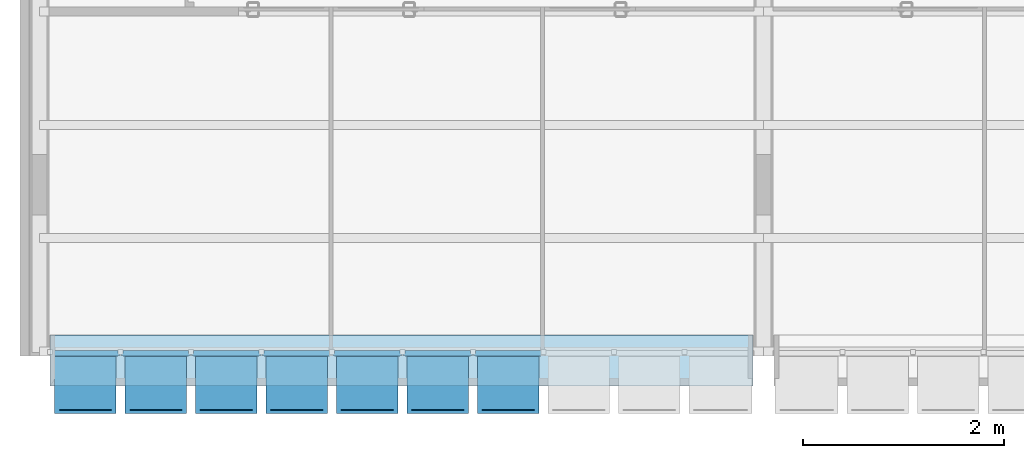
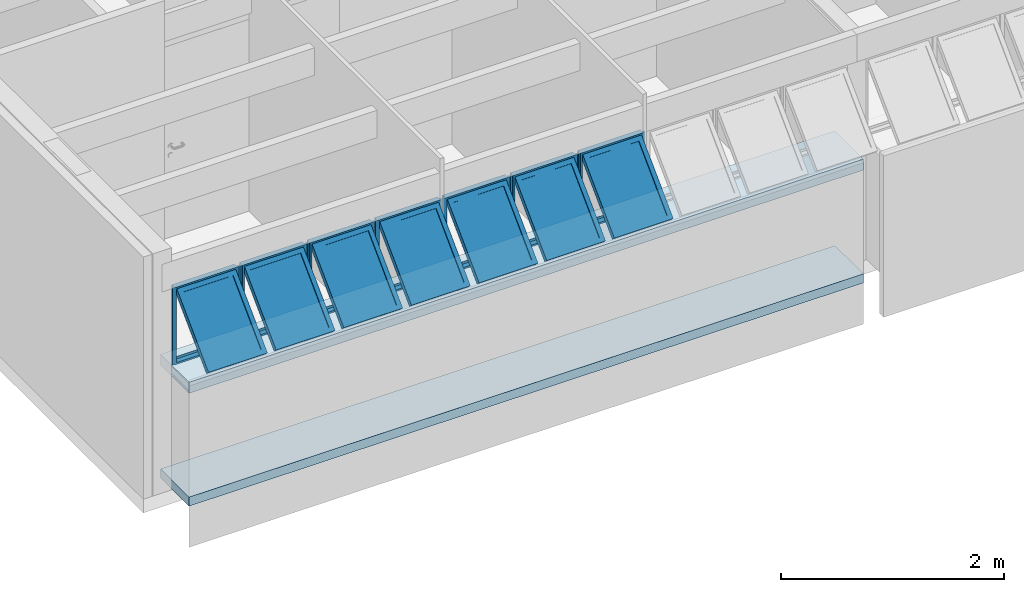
# One storey, part 4 of 40: 7 plates, 2 slabs, 1 element without a shape of its own.
"""IFC4 building model written with IfcOpenShell, lengths in millimetres."""

from ifc_helpers import new_model, entity, si_unit, converted_unit, derived_unit, direction, frame, origin_with_axes, place, context, subcontext, project, spatial, line, indexed_curve, outline, extrude, polygons, source, transform, mapped, material, layer, layer_set, layer_usage, constituent, constituent_set, type_object, element, aggregate, save


model = new_model("IFC4")

# Units and contexts
model_context = context("Model", 3, precision=0.01, world=origin_with_axes(), true_north=direction((0.0, 1.0)))
body_context = subcontext(model_context, "Body", "Model", "MODEL_VIEW")
ifc_project = project(units=[si_unit("LENGTHUNIT", "METRE", prefix="MILLI"), si_unit("AREAUNIT", "SQUARE_METRE"), si_unit("VOLUMEUNIT", "CUBIC_METRE"), converted_unit("PLANEANGLEUNIT", "DEGREE", entity("IfcPlaneAngleMeasure", 0.0174532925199), si_unit("PLANEANGLEUNIT", "RADIAN"), dimensions=[0, 0, 0, 0, 0, 0, 0]), converted_unit("TIMEUNIT", "Year", entity("IfcTimeMeasure", 31556926.0), si_unit("TIMEUNIT", "SECOND"), dimensions=[0, 0, 1, 0, 0, 0, 0]), si_unit("MASSUNIT", "GRAM", prefix="KILO"), si_unit("THERMODYNAMICTEMPERATUREUNIT", "DEGREE_CELSIUS"), si_unit("LUMINOUSINTENSITYUNIT", "LUMEN"), si_unit("ENERGYUNIT", "JOULE", prefix="MEGA"), derived_unit("THERMALCONDUCTANCEUNIT", [(si_unit("POWERUNIT", "WATT"), 1), (si_unit("LENGTHUNIT", "METRE"), -1), (si_unit("THERMODYNAMICTEMPERATUREUNIT", "KELVIN"), -1)]), derived_unit("SPECIFICHEATCAPACITYUNIT", [(si_unit("ENERGYUNIT", "JOULE"), 1), (si_unit("MASSUNIT", "GRAM", prefix="KILO"), -1), (si_unit("THERMODYNAMICTEMPERATUREUNIT", "KELVIN"), -1)]), derived_unit("MASSDENSITYUNIT", [(si_unit("MASSUNIT", "GRAM", prefix="KILO"), 1), (si_unit("VOLUMEUNIT", "CUBIC_METRE"), -1)])], contexts=[model_context])

# Site, building, storey
site_placement = place(None, origin_with_axes())
site = spatial("IfcSite", under=ifc_project, at=site_placement, Name="Local", CompositionType="ELEMENT")
building_placement = place(site_placement, origin_with_axes())
building = spatial("IfcBuilding", under=site, at=building_placement, Name="Construção", CompositionType="ELEMENT")
storey_placement = place(building_placement, frame((0.0, 0.0, 5300.0), z_axis=(0.0, 0.0, 1.0), x_axis=(1.0, 0.0, 0.0)))
storey = spatial("IfcBuildingStorey", under=building, at=storey_placement, Name="Terceiro Pavimento", CompositionType="ELEMENT", Elevation=5300.0)

# Slab
ifc_material_1 = material(Name="Concreto Armado Moldado in Loco - Estrutural")
ifc_layer_1 = layer(ifc_material_1, 120.0, ventilated="UNKNOWN", Name="Concreto Armado Moldado in Loco - Estrutural")
ifc_layer_set_1 = layer_set([ifc_layer_1], Name="Concreto Armado Moldado in Loco - Estrutural 120")
ifc_layer_usage_1 = layer_usage(ifc_layer_set_1, "AXIS3", "NEGATIVE", 120.0)
slab_type_1 = type_object("IfcSlabType", Name="Concreto Armado Moldado in Loco - Estrutural 120", PredefinedType="FLOOR")
slab_1_placement = place(storey_placement, frame((300.0, 0.0, 1355.0), z_axis=(0.0, 0.0, 1.0), x_axis=(1.0, 0.0, 0.0)))
element("IfcSlab", 1, at=slab_1_placement, inside=storey, type_object=slab_type_1, material=ifc_layer_usage_1, Name="APTO9-LAJE-002", PredefinedType="FLOOR", context=body_context, shape_type="SweptSolid", body=[
    extrude(outline(indexed_curve([(0.0, 0.0), (6980.0, 0.0), (6980.0, 510.0), (0.0, 510.0)], segments=[line(1, 2, 3, 4, 1)])), frame((0.0, 0.0, -120.0), z_axis=(0.0, 0.0, 1.0), x_axis=(1.0, 0.0, 0.0)), (0.0, 0.0, 1.0), 120.0),
])

# Window, plates
window_type = type_object("IfcWindowType", Name="Tipo de Parede Cortina", PartitioningType="NOTDEFINED", PredefinedType="NOTDEFINED")
window_placement = place(storey_placement, frame((6250.0, 315.020977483, 1355.02054151), z_axis=(0.0, 0.0, 1.0), x_axis=(1.0, 0.0, 0.0)))
window = element("IfcWindow", 2, at=window_placement, inside=storey, type_object=window_type, Name="APTO9-JANELA-001", PredefinedType="NOTDEFINED")
ifc_material_2 = material(Name="Alumínio")
ifc_constituent_1 = constituent(ifc_material_2, Name="Alumínio")
ifc_material_3 = material(Name="Vidro")
ifc_constituent_2 = constituent(ifc_material_3, Name="Vidro")
ifc_constituent_set_1 = constituent_set(constituents=[ifc_constituent_1, ifc_constituent_2])
plate_type = type_object("IfcPlateType", Name="Painel Principal 690 x 845 x 20", PredefinedType="CURTAIN_PANEL")
shared_shape_1 = source(origin_with_axes(), body_context, "Body", "Tessellation", [
    polygons([(25.0000036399, 0.0, -40.0), (674.999997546, 0.0, -40.0), (674.999997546, 0.0, -35.0), (25.0000036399, 0.0, -35.0), (70.0000036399, 45.0, -40.0), (629.999997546, 45.0, -40.0), (629.999997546, 45.0, -35.0), (70.0000036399, 45.0, -35.0)], [[[1, 2, 3, 4]], [[1, 5, 6, 2]], [[2, 6, 7, 3]], [[4, 3, 7, 8]], [[5, 1, 4, 8]], [[6, 5, 8, 7]]], closed=True),
    polygons([(674.999997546, 0.0, -40.0), (674.999997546, 844.999891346, -40.0), (674.999997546, 844.999891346, -35.0), (674.999997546, 0.0, -35.0), (629.999997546, 45.0, -40.0), (629.999997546, 799.999891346, -40.0), (629.999997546, 799.999891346, -35.0), (629.999997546, 45.0, -35.0)], [[[1, 2, 3, 4]], [[1, 5, 6, 2]], [[2, 6, 7, 3]], [[4, 3, 7, 8]], [[5, 1, 4, 8]], [[6, 5, 8, 7]]], closed=True),
    polygons([(25.0000036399, 844.999891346, -40.0), (70.0000036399, 799.999891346, -40.0), (70.0000036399, 799.999891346, -35.0), (25.0000036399, 844.999891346, -35.0), (674.999997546, 844.999891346, -40.0), (629.999997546, 799.999891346, -40.0), (629.999997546, 799.999891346, -35.0), (674.999997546, 844.999891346, -35.0)], [[[1, 2, 3, 4]], [[1, 5, 6, 2]], [[2, 6, 7, 3]], [[4, 3, 7, 8]], [[5, 1, 4, 8]], [[6, 5, 8, 7]]], closed=True),
    polygons([(25.0000036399, 0.0, -40.0), (70.0000036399, 45.0, -40.0), (70.0000036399, 45.0, -35.0), (25.0000036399, 0.0, -35.0), (25.0000036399, 844.999891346, -40.0), (70.0000036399, 799.999891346, -40.0), (70.0000036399, 799.999891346, -35.0), (25.0000036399, 844.999891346, -35.0)], [[[1, 2, 3, 4]], [[1, 5, 6, 2]], [[2, 6, 7, 3]], [[4, 3, 7, 8]], [[5, 1, 4, 8]], [[6, 5, 8, 7]]], closed=True),
    polygons([(25.0000036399, 0.0, -35.0), (674.999997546, 0.0, -35.0), (674.999997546, 0.0, 15.0), (25.0000036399, 0.0, 15.0), (45.0000036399, 20.0, -35.0), (654.999997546, 20.0, -35.0), (654.999997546, 20.0, 15.0), (45.0000036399, 20.0, 15.0)], [[[1, 2, 3, 4]], [[1, 5, 6, 2]], [[2, 6, 7, 3]], [[4, 3, 7, 8]], [[5, 1, 4, 8]], [[6, 5, 8, 7]]], closed=True),
    polygons([(674.999997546, 0.0, -35.0), (674.999997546, 844.999891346, -35.0), (674.999997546, 844.999891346, 15.0), (674.999997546, 0.0, 15.0), (654.999997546, 20.0, -35.0), (654.999997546, 824.999891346, -35.0), (654.999997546, 824.999891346, 15.0), (654.999997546, 20.0, 15.0)], [[[1, 2, 3, 4]], [[1, 5, 6, 2]], [[2, 6, 7, 3]], [[4, 3, 7, 8]], [[5, 1, 4, 8]], [[6, 5, 8, 7]]], closed=True),
    polygons([(25.0000036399, 844.999891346, -35.0), (45.0000036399, 824.999891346, -35.0), (45.0000036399, 824.999891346, 15.0), (25.0000036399, 844.999891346, 15.0), (674.999997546, 844.999891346, -35.0), (654.999997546, 824.999891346, -35.0), (654.999997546, 824.999891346, 15.0), (674.999997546, 844.999891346, 15.0)], [[[1, 2, 3, 4]], [[1, 5, 6, 2]], [[2, 6, 7, 3]], [[4, 3, 7, 8]], [[5, 1, 4, 8]], [[6, 5, 8, 7]]], closed=True),
    polygons([(25.0000036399, 0.0, -35.0), (45.0000036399, 20.0, -35.0), (45.0000036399, 20.0, 15.0), (25.0000036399, 0.0, 15.0), (25.0000036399, 844.999891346, -35.0), (45.0000036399, 824.999891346, -35.0), (45.0000036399, 824.999891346, 15.0), (25.0000036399, 844.999891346, 15.0)], [[[1, 2, 3, 4]], [[1, 5, 6, 2]], [[2, 6, 7, 3]], [[4, 3, 7, 8]], [[5, 1, 4, 8]], [[6, 5, 8, 7]]], closed=True),
    polygons([(694.999995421, 0.0, -10.0), (694.999995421, 844.999891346, -10.0), (694.999995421, 844.999891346, 10.0), (694.999995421, 0.0, 10.0), (674.999997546, 0.0, -10.0), (674.999997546, 844.999891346, -10.0), (674.999997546, 844.999891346, 10.0), (674.999997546, 0.0, 10.0)], [[[1, 2, 3, 4]], [[1, 5, 6, 2]], [[2, 6, 7, 3]], [[4, 3, 7, 8]], [[5, 1, 4, 8]], [[6, 5, 8, 7]]], closed=True),
    polygons([(5.00000576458, 844.999891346, -10.0), (5.00000576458, 0.0, -10.0), (5.00000576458, 0.0, 10.0), (5.00000576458, 844.999891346, 10.0), (25.0000036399, 844.999891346, -10.0), (25.0000036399, 0.0, -10.0), (25.0000036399, 0.0, 10.0), (25.0000036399, 844.999891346, 10.0)], [[[1, 2, 3, 4]], [[1, 5, 6, 2]], [[2, 6, 7, 3]], [[4, 3, 7, 8]], [[5, 1, 4, 8]], [[6, 5, 8, 7]]], closed=True),
    polygons([(90.0000036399, 252.243475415, 517.045737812), (90.0000036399, 757.824747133, 11.4644660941), (90.0000036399, 796.715620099, 50.3553390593), (90.0000036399, 291.13434838, 555.936610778), (45.0000036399, 220.423670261, 548.865542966), (45.0000036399, 789.644552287, -20.3553390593), (45.0000036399, 828.535425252, 18.5355339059), (45.0000036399, 259.314543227, 587.756415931)], [[[1, 2, 3, 4]], [[1, 5, 6, 2]], [[2, 6, 7, 3]], [[4, 3, 7, 8]], [[5, 1, 4, 8]], [[6, 5, 8, 7]]], closed=True),
    polygons([(654.999997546, 220.423670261, 548.865542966), (654.999997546, 789.644552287, -20.3553390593), (654.999997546, 828.535425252, 18.5355339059), (654.999997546, 259.314543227, 587.756415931), (609.999997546, 252.243475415, 517.045737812), (609.999997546, 757.824747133, 11.4644660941), (609.999997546, 796.715620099, 50.3553390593), (609.999997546, 291.13434838, 555.936610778)], [[[1, 2, 3, 4]], [[1, 5, 6, 2]], [[2, 6, 7, 3]], [[4, 3, 7, 8]], [[5, 1, 4, 8]], [[6, 5, 8, 7]]], closed=True),
    polygons([(654.999997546, 220.423670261, 548.865542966), (609.999997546, 252.243475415, 517.045737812), (609.999997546, 291.13434838, 555.936610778), (654.999997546, 259.314543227, 587.756415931), (45.0000036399, 220.423670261, 548.865542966), (90.0000036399, 252.243475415, 517.045737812), (90.0000036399, 291.13434838, 555.936610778), (45.0000036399, 259.314543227, 587.756415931)], [[[1, 2, 3, 4]], [[1, 5, 6, 2]], [[2, 6, 7, 3]], [[4, 3, 7, 8]], [[5, 1, 4, 8]], [[6, 5, 8, 7]]], closed=True),
    polygons([(45.0000036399, 789.644552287, -20.3553390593), (90.0000036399, 757.824747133, 11.4644660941), (90.0000036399, 796.715620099, 50.3553390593), (45.0000036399, 828.535425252, 18.5355339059), (654.999997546, 789.644552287, -20.3553390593), (609.999997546, 757.824747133, 11.4644660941), (609.999997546, 796.715620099, 50.3553390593), (654.999997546, 828.535425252, 18.5355339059)], [[[1, 2, 3, 4]], [[1, 5, 6, 2]], [[2, 6, 7, 3]], [[4, 3, 7, 8]], [[5, 1, 4, 8]], [[6, 5, 8, 7]]], closed=True),
    polygons([(90.0000036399, 272.749572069, 537.551834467), (609.999997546, 272.749572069, 537.551834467), (609.999997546, 284.063280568, 548.865542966), (90.0000036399, 284.063280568, 548.865542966), (90.0000036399, 778.330843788, 31.9705627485), (609.999997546, 778.330843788, 31.9705627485), (609.999997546, 789.644552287, 43.2842712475), (90.0000036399, 789.644552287, 43.2842712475)], [[[1, 2, 3, 4]], [[1, 5, 6, 2]], [[2, 6, 7, 3]], [[4, 3, 7, 8]], [[5, 1, 4, 8]], [[6, 5, 8, 7]]], closed=True),
])
plate_1_placement = place(window_placement, frame((-1400.0, 0.0, 422.499945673), z_axis=(0.0, 0.0, 1.0), x_axis=(-1.0, 0.0, 0.0)))
plate_1 = element("IfcPlate", 3, at=plate_1_placement, type_object=plate_type, material=ifc_constituent_set_1, Name="APTO9-Painel-Prin-029", PredefinedType="CURTAIN_PANEL", context=body_context, shape_type="MappedRepresentation", body=[
    mapped(shared_shape_1, transform((350.0, 0.0, -422.499945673), x_axis=(-1.0, 0.0, 0.0), y_axis=(0.0, 0.0, 1.0), z_axis=(0.0, 1.0, 0.0))),
])
ifc_constituent_3 = constituent(ifc_material_2, Name="Alumínio")
ifc_constituent_4 = constituent(ifc_material_3, Name="Vidro")
ifc_constituent_set_2 = constituent_set(constituents=[ifc_constituent_3, ifc_constituent_4])
plate_2_placement = place(window_placement, frame((-3500.0, 0.0, 422.499945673), z_axis=(0.0, 0.0, 1.0), x_axis=(-1.0, 0.0, 0.0)))
plate_2 = element("IfcPlate", 4, at=plate_2_placement, type_object=plate_type, material=ifc_constituent_set_2, Name="APTO9-Painel-Prin-013", PredefinedType="CURTAIN_PANEL", context=body_context, shape_type="MappedRepresentation", body=[
    mapped(shared_shape_1, transform((350.0, 0.0, -422.499945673), x_axis=(-1.0, 0.0, 0.0), y_axis=(0.0, 0.0, 1.0), z_axis=(0.0, 1.0, 0.0))),
])
ifc_constituent_5 = constituent(ifc_material_2, Name="Alumínio")
ifc_constituent_6 = constituent(ifc_material_3, Name="Vidro")
ifc_constituent_set_3 = constituent_set(constituents=[ifc_constituent_5, ifc_constituent_6])
shared_shape_2 = source(origin_with_axes(), body_context, "Body", "Tessellation", [
    polygons([(25.0000036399, 0.0, -40.0), (674.999997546, 0.0, -40.0), (674.999997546, 0.0, -35.0), (25.0000036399, 0.0, -35.0), (70.0000036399, 45.0, -40.0), (629.999997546, 45.0, -40.0), (629.999997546, 45.0, -35.0), (70.0000036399, 45.0, -35.0)], [[[1, 2, 3, 4]], [[1, 5, 6, 2]], [[2, 6, 7, 3]], [[4, 3, 7, 8]], [[5, 1, 4, 8]], [[6, 5, 8, 7]]], closed=True),
    polygons([(674.999997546, 0.0, -40.0), (674.999997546, 844.999891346, -40.0), (674.999997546, 844.999891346, -35.0), (674.999997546, 0.0, -35.0), (629.999997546, 45.0, -40.0), (629.999997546, 799.999891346, -40.0), (629.999997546, 799.999891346, -35.0), (629.999997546, 45.0, -35.0)], [[[1, 2, 3, 4]], [[1, 5, 6, 2]], [[2, 6, 7, 3]], [[4, 3, 7, 8]], [[5, 1, 4, 8]], [[6, 5, 8, 7]]], closed=True),
    polygons([(25.0000036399, 844.999891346, -40.0), (70.0000036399, 799.999891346, -40.0), (70.0000036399, 799.999891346, -35.0), (25.0000036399, 844.999891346, -35.0), (674.999997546, 844.999891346, -40.0), (629.999997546, 799.999891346, -40.0), (629.999997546, 799.999891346, -35.0), (674.999997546, 844.999891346, -35.0)], [[[1, 2, 3, 4]], [[1, 5, 6, 2]], [[2, 6, 7, 3]], [[4, 3, 7, 8]], [[5, 1, 4, 8]], [[6, 5, 8, 7]]], closed=True),
    polygons([(25.0000036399, 0.0, -40.0), (70.0000036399, 45.0, -40.0), (70.0000036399, 45.0, -35.0), (25.0000036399, 0.0, -35.0), (25.0000036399, 844.999891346, -40.0), (70.0000036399, 799.999891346, -40.0), (70.0000036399, 799.999891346, -35.0), (25.0000036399, 844.999891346, -35.0)], [[[1, 2, 3, 4]], [[1, 5, 6, 2]], [[2, 6, 7, 3]], [[4, 3, 7, 8]], [[5, 1, 4, 8]], [[6, 5, 8, 7]]], closed=True),
    polygons([(25.0000036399, 0.0, -35.0), (674.999997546, 0.0, -35.0), (674.999997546, 0.0, 15.0), (25.0000036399, 0.0, 15.0), (45.0000036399, 20.0, -35.0), (654.999997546, 20.0, -35.0), (654.999997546, 20.0, 15.0), (45.0000036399, 20.0, 15.0)], [[[1, 2, 3, 4]], [[1, 5, 6, 2]], [[2, 6, 7, 3]], [[4, 3, 7, 8]], [[5, 1, 4, 8]], [[6, 5, 8, 7]]], closed=True),
    polygons([(674.999997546, 0.0, -35.0), (674.999997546, 844.999891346, -35.0), (674.999997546, 844.999891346, 15.0), (674.999997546, 0.0, 15.0), (654.999997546, 20.0, -35.0), (654.999997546, 824.999891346, -35.0), (654.999997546, 824.999891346, 15.0), (654.999997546, 20.0, 15.0)], [[[1, 2, 3, 4]], [[1, 5, 6, 2]], [[2, 6, 7, 3]], [[4, 3, 7, 8]], [[5, 1, 4, 8]], [[6, 5, 8, 7]]], closed=True),
    polygons([(25.0000036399, 844.999891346, -35.0), (45.0000036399, 824.999891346, -35.0), (45.0000036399, 824.999891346, 15.0), (25.0000036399, 844.999891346, 15.0), (674.999997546, 844.999891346, -35.0), (654.999997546, 824.999891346, -35.0), (654.999997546, 824.999891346, 15.0), (674.999997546, 844.999891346, 15.0)], [[[1, 2, 3, 4]], [[1, 5, 6, 2]], [[2, 6, 7, 3]], [[4, 3, 7, 8]], [[5, 1, 4, 8]], [[6, 5, 8, 7]]], closed=True),
    polygons([(25.0000036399, 0.0, -35.0), (45.0000036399, 20.0, -35.0), (45.0000036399, 20.0, 15.0), (25.0000036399, 0.0, 15.0), (25.0000036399, 844.999891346, -35.0), (45.0000036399, 824.999891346, -35.0), (45.0000036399, 824.999891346, 15.0), (25.0000036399, 844.999891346, 15.0)], [[[1, 2, 3, 4]], [[1, 5, 6, 2]], [[2, 6, 7, 3]], [[4, 3, 7, 8]], [[5, 1, 4, 8]], [[6, 5, 8, 7]]], closed=True),
    polygons([(694.999995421, 0.0, -10.0), (694.999995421, 844.999891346, -10.0), (694.999995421, 844.999891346, 10.0), (694.999995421, 0.0, 10.0), (674.999997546, 0.0, -10.0), (674.999997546, 844.999891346, -10.0), (674.999997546, 844.999891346, 10.0), (674.999997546, 0.0, 10.0)], [[[1, 2, 3, 4]], [[1, 5, 6, 2]], [[2, 6, 7, 3]], [[4, 3, 7, 8]], [[5, 1, 4, 8]], [[6, 5, 8, 7]]], closed=True),
    polygons([(5.00000576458, 844.999891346, -10.0), (5.00000576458, 0.0, -10.0), (5.00000576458, 0.0, 10.0), (5.00000576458, 844.999891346, 10.0), (25.0000036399, 844.999891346, -10.0), (25.0000036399, 0.0, -10.0), (25.0000036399, 0.0, 10.0), (25.0000036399, 844.999891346, 10.0)], [[[1, 2, 3, 4]], [[1, 5, 6, 2]], [[2, 6, 7, 3]], [[4, 3, 7, 8]], [[5, 1, 4, 8]], [[6, 5, 8, 7]]], closed=True),
    polygons([(90.0000036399, 252.243475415, 517.045737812), (90.0000036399, 757.824747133, 11.4644660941), (90.0000036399, 796.715620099, 50.3553390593), (90.0000036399, 291.13434838, 555.936610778), (45.0000036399, 220.423670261, 548.865542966), (45.0000036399, 789.644552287, -20.3553390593), (45.0000036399, 828.535425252, 18.5355339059), (45.0000036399, 259.314543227, 587.756415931)], [[[1, 2, 3, 4]], [[1, 5, 6, 2]], [[2, 6, 7, 3]], [[4, 3, 7, 8]], [[5, 1, 4, 8]], [[6, 5, 8, 7]]], closed=True),
    polygons([(654.999997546, 220.423670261, 548.865542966), (654.999997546, 789.644552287, -20.3553390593), (654.999997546, 828.535425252, 18.5355339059), (654.999997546, 259.314543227, 587.756415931), (609.999997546, 252.243475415, 517.045737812), (609.999997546, 757.824747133, 11.4644660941), (609.999997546, 796.715620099, 50.3553390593), (609.999997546, 291.13434838, 555.936610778)], [[[1, 2, 3, 4]], [[1, 5, 6, 2]], [[2, 6, 7, 3]], [[4, 3, 7, 8]], [[5, 1, 4, 8]], [[6, 5, 8, 7]]], closed=True),
    polygons([(654.999997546, 220.423670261, 548.865542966), (609.999997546, 252.243475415, 517.045737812), (609.999997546, 291.13434838, 555.936610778), (654.999997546, 259.314543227, 587.756415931), (45.0000036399, 220.423670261, 548.865542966), (90.0000036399, 252.243475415, 517.045737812), (90.0000036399, 291.13434838, 555.936610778), (45.0000036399, 259.314543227, 587.756415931)], [[[1, 2, 3, 4]], [[1, 5, 6, 2]], [[2, 6, 7, 3]], [[4, 3, 7, 8]], [[5, 1, 4, 8]], [[6, 5, 8, 7]]], closed=True),
    polygons([(45.0000036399, 789.644552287, -20.3553390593), (90.0000036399, 757.824747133, 11.4644660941), (90.0000036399, 796.715620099, 50.3553390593), (45.0000036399, 828.535425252, 18.5355339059), (654.999997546, 789.644552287, -20.3553390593), (609.999997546, 757.824747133, 11.4644660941), (609.999997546, 796.715620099, 50.3553390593), (654.999997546, 828.535425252, 18.5355339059)], [[[1, 2, 3, 4]], [[1, 5, 6, 2]], [[2, 6, 7, 3]], [[4, 3, 7, 8]], [[5, 1, 4, 8]], [[6, 5, 8, 7]]], closed=True),
    polygons([(90.0000036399, 272.749572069, 537.551834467), (609.999997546, 272.749572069, 537.551834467), (609.999997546, 284.063280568, 548.865542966), (90.0000036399, 284.063280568, 548.865542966), (90.0000036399, 778.330843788, 31.9705627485), (609.999997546, 778.330843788, 31.9705627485), (609.999997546, 789.644552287, 43.2842712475), (90.0000036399, 789.644552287, 43.2842712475)], [[[1, 2, 3, 4]], [[1, 5, 6, 2]], [[2, 6, 7, 3]], [[4, 3, 7, 8]], [[5, 1, 4, 8]], [[6, 5, 8, 7]]], closed=True),
])
plate_3_placement = place(window_placement, frame((-5600.0, 0.0, 422.499945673), z_axis=(0.0, 0.0, 1.0), x_axis=(-1.0, 0.0, 0.0)))
plate_3 = element("IfcPlate", 5, at=plate_3_placement, type_object=plate_type, material=ifc_constituent_set_3, Name="APTO9-Painel-Prin-013", PredefinedType="CURTAIN_PANEL", context=body_context, shape_type="MappedRepresentation", body=[
    mapped(shared_shape_2, transform((350.0, 0.0, -422.499945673), x_axis=(-1.0, 0.0, 0.0), y_axis=(0.0, 0.0, 1.0), z_axis=(0.0, 1.0, 0.0))),
])
ifc_constituent_7 = constituent(ifc_material_2, Name="Alumínio")
ifc_constituent_8 = constituent(ifc_material_3, Name="Vidro")
ifc_constituent_set_4 = constituent_set(constituents=[ifc_constituent_7, ifc_constituent_8])
plate_4_placement = place(window_placement, frame((-4900.0, 0.0, 422.499945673), z_axis=(0.0, 0.0, 1.0), x_axis=(-1.0, 0.0, 0.0)))
plate_4 = element("IfcPlate", 6, at=plate_4_placement, type_object=plate_type, material=ifc_constituent_set_4, Name="APTO9-Painel-Prin-013", PredefinedType="CURTAIN_PANEL", context=body_context, shape_type="MappedRepresentation", body=[
    mapped(shared_shape_2, transform((350.0, 0.0, -422.499945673), x_axis=(-1.0, 0.0, 0.0), y_axis=(0.0, 0.0, 1.0), z_axis=(0.0, 1.0, 0.0))),
])
ifc_constituent_9 = constituent(ifc_material_2, Name="Alumínio")
ifc_constituent_10 = constituent(ifc_material_3, Name="Vidro")
ifc_constituent_set_5 = constituent_set(constituents=[ifc_constituent_9, ifc_constituent_10])
plate_5_placement = place(window_placement, frame((-2100.0, 0.0, 422.499945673), z_axis=(0.0, 0.0, 1.0), x_axis=(-1.0, 0.0, 0.0)))
plate_5 = element("IfcPlate", 7, at=plate_5_placement, type_object=plate_type, material=ifc_constituent_set_5, Name="APTO9-Painel-Prin-025", PredefinedType="CURTAIN_PANEL", context=body_context, shape_type="MappedRepresentation", body=[
    mapped(shared_shape_2, transform((350.0, 0.0, -422.499945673), x_axis=(-1.0, 0.0, 0.0), y_axis=(0.0, 0.0, 1.0), z_axis=(0.0, 1.0, 0.0))),
])
ifc_constituent_11 = constituent(ifc_material_2, Name="Alumínio")
ifc_constituent_12 = constituent(ifc_material_3, Name="Vidro")
ifc_constituent_set_6 = constituent_set(constituents=[ifc_constituent_11, ifc_constituent_12])
shared_shape_3 = source(origin_with_axes(), body_context, "Body", "Tessellation", [
    polygons([(25.0000036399, 0.0, -40.0), (674.999997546, 0.0, -40.0), (674.999997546, 0.0, -35.0), (25.0000036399, 0.0, -35.0), (70.0000036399, 45.0, -40.0), (629.999997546, 45.0, -40.0), (629.999997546, 45.0, -35.0), (70.0000036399, 45.0, -35.0)], [[[1, 2, 3, 4]], [[1, 5, 6, 2]], [[2, 6, 7, 3]], [[4, 3, 7, 8]], [[5, 1, 4, 8]], [[6, 5, 8, 7]]], closed=True),
    polygons([(674.999997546, 0.0, -40.0), (674.999997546, 844.999891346, -40.0), (674.999997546, 844.999891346, -35.0), (674.999997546, 0.0, -35.0), (629.999997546, 45.0, -40.0), (629.999997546, 799.999891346, -40.0), (629.999997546, 799.999891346, -35.0), (629.999997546, 45.0, -35.0)], [[[1, 2, 3, 4]], [[1, 5, 6, 2]], [[2, 6, 7, 3]], [[4, 3, 7, 8]], [[5, 1, 4, 8]], [[6, 5, 8, 7]]], closed=True),
    polygons([(25.0000036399, 844.999891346, -40.0), (70.0000036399, 799.999891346, -40.0), (70.0000036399, 799.999891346, -35.0), (25.0000036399, 844.999891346, -35.0), (674.999997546, 844.999891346, -40.0), (629.999997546, 799.999891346, -40.0), (629.999997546, 799.999891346, -35.0), (674.999997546, 844.999891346, -35.0)], [[[1, 2, 3, 4]], [[1, 5, 6, 2]], [[2, 6, 7, 3]], [[4, 3, 7, 8]], [[5, 1, 4, 8]], [[6, 5, 8, 7]]], closed=True),
    polygons([(25.0000036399, 0.0, -40.0), (70.0000036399, 45.0, -40.0), (70.0000036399, 45.0, -35.0), (25.0000036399, 0.0, -35.0), (25.0000036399, 844.999891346, -40.0), (70.0000036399, 799.999891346, -40.0), (70.0000036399, 799.999891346, -35.0), (25.0000036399, 844.999891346, -35.0)], [[[1, 2, 3, 4]], [[1, 5, 6, 2]], [[2, 6, 7, 3]], [[4, 3, 7, 8]], [[5, 1, 4, 8]], [[6, 5, 8, 7]]], closed=True),
    polygons([(25.0000036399, 0.0, -35.0), (674.999997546, 0.0, -35.0), (674.999997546, 0.0, 15.0), (25.0000036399, 0.0, 15.0), (45.0000036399, 20.0, -35.0), (654.999997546, 20.0, -35.0), (654.999997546, 20.0, 15.0), (45.0000036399, 20.0, 15.0)], [[[1, 2, 3, 4]], [[1, 5, 6, 2]], [[2, 6, 7, 3]], [[4, 3, 7, 8]], [[5, 1, 4, 8]], [[6, 5, 8, 7]]], closed=True),
    polygons([(674.999997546, 0.0, -35.0), (674.999997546, 844.999891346, -35.0), (674.999997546, 844.999891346, 15.0), (674.999997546, 0.0, 15.0), (654.999997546, 20.0, -35.0), (654.999997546, 824.999891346, -35.0), (654.999997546, 824.999891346, 15.0), (654.999997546, 20.0, 15.0)], [[[1, 2, 3, 4]], [[1, 5, 6, 2]], [[2, 6, 7, 3]], [[4, 3, 7, 8]], [[5, 1, 4, 8]], [[6, 5, 8, 7]]], closed=True),
    polygons([(25.0000036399, 844.999891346, -35.0), (45.0000036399, 824.999891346, -35.0), (45.0000036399, 824.999891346, 15.0), (25.0000036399, 844.999891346, 15.0), (674.999997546, 844.999891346, -35.0), (654.999997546, 824.999891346, -35.0), (654.999997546, 824.999891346, 15.0), (674.999997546, 844.999891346, 15.0)], [[[1, 2, 3, 4]], [[1, 5, 6, 2]], [[2, 6, 7, 3]], [[4, 3, 7, 8]], [[5, 1, 4, 8]], [[6, 5, 8, 7]]], closed=True),
    polygons([(25.0000036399, 0.0, -35.0), (45.0000036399, 20.0, -35.0), (45.0000036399, 20.0, 15.0), (25.0000036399, 0.0, 15.0), (25.0000036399, 844.999891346, -35.0), (45.0000036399, 824.999891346, -35.0), (45.0000036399, 824.999891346, 15.0), (25.0000036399, 844.999891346, 15.0)], [[[1, 2, 3, 4]], [[1, 5, 6, 2]], [[2, 6, 7, 3]], [[4, 3, 7, 8]], [[5, 1, 4, 8]], [[6, 5, 8, 7]]], closed=True),
    polygons([(694.999995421, 0.0, -10.0), (694.999995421, 844.999891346, -10.0), (694.999995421, 844.999891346, 10.0), (694.999995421, 0.0, 10.0), (674.999997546, 0.0, -10.0), (674.999997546, 844.999891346, -10.0), (674.999997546, 844.999891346, 10.0), (674.999997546, 0.0, 10.0)], [[[1, 2, 3, 4]], [[1, 5, 6, 2]], [[2, 6, 7, 3]], [[4, 3, 7, 8]], [[5, 1, 4, 8]], [[6, 5, 8, 7]]], closed=True),
    polygons([(5.00000576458, 844.999891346, -10.0), (5.00000576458, 0.0, -10.0), (5.00000576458, 0.0, 10.0), (5.00000576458, 844.999891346, 10.0), (25.0000036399, 844.999891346, -10.0), (25.0000036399, 0.0, -10.0), (25.0000036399, 0.0, 10.0), (25.0000036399, 844.999891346, 10.0)], [[[1, 2, 3, 4]], [[1, 5, 6, 2]], [[2, 6, 7, 3]], [[4, 3, 7, 8]], [[5, 1, 4, 8]], [[6, 5, 8, 7]]], closed=True),
    polygons([(90.0000036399, 252.243475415, 517.045737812), (90.0000036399, 757.824747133, 11.4644660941), (90.0000036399, 796.715620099, 50.3553390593), (90.0000036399, 291.13434838, 555.936610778), (45.0000036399, 220.423670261, 548.865542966), (45.0000036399, 789.644552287, -20.3553390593), (45.0000036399, 828.535425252, 18.5355339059), (45.0000036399, 259.314543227, 587.756415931)], [[[1, 2, 3, 4]], [[1, 5, 6, 2]], [[2, 6, 7, 3]], [[4, 3, 7, 8]], [[5, 1, 4, 8]], [[6, 5, 8, 7]]], closed=True),
    polygons([(654.999997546, 220.423670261, 548.865542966), (654.999997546, 789.644552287, -20.3553390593), (654.999997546, 828.535425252, 18.5355339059), (654.999997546, 259.314543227, 587.756415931), (609.999997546, 252.243475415, 517.045737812), (609.999997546, 757.824747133, 11.4644660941), (609.999997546, 796.715620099, 50.3553390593), (609.999997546, 291.13434838, 555.936610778)], [[[1, 2, 3, 4]], [[1, 5, 6, 2]], [[2, 6, 7, 3]], [[4, 3, 7, 8]], [[5, 1, 4, 8]], [[6, 5, 8, 7]]], closed=True),
    polygons([(654.999997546, 220.423670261, 548.865542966), (609.999997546, 252.243475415, 517.045737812), (609.999997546, 291.13434838, 555.936610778), (654.999997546, 259.314543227, 587.756415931), (45.0000036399, 220.423670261, 548.865542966), (90.0000036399, 252.243475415, 517.045737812), (90.0000036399, 291.13434838, 555.936610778), (45.0000036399, 259.314543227, 587.756415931)], [[[1, 2, 3, 4]], [[1, 5, 6, 2]], [[2, 6, 7, 3]], [[4, 3, 7, 8]], [[5, 1, 4, 8]], [[6, 5, 8, 7]]], closed=True),
    polygons([(45.0000036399, 789.644552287, -20.3553390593), (90.0000036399, 757.824747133, 11.4644660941), (90.0000036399, 796.715620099, 50.3553390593), (45.0000036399, 828.535425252, 18.5355339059), (654.999997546, 789.644552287, -20.3553390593), (609.999997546, 757.824747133, 11.4644660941), (609.999997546, 796.715620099, 50.3553390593), (654.999997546, 828.535425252, 18.5355339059)], [[[1, 2, 3, 4]], [[1, 5, 6, 2]], [[2, 6, 7, 3]], [[4, 3, 7, 8]], [[5, 1, 4, 8]], [[6, 5, 8, 7]]], closed=True),
    polygons([(90.0000036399, 272.749572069, 537.551834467), (609.999997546, 272.749572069, 537.551834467), (609.999997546, 284.063280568, 548.865542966), (90.0000036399, 284.063280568, 548.865542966), (90.0000036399, 778.330843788, 31.9705627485), (609.999997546, 778.330843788, 31.9705627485), (609.999997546, 789.644552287, 43.2842712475), (90.0000036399, 789.644552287, 43.2842712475)], [[[1, 2, 3, 4]], [[1, 5, 6, 2]], [[2, 6, 7, 3]], [[4, 3, 7, 8]], [[5, 1, 4, 8]], [[6, 5, 8, 7]]], closed=True),
])
plate_6_placement = place(window_placement, frame((-2800.0, 0.0, 422.499945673), z_axis=(0.0, 0.0, 1.0), x_axis=(-1.0, 0.0, 0.0)))
plate_6 = element("IfcPlate", 8, at=plate_6_placement, type_object=plate_type, material=ifc_constituent_set_6, Name="APTO9-Painel-Prin-013", PredefinedType="CURTAIN_PANEL", context=body_context, shape_type="MappedRepresentation", body=[
    mapped(shared_shape_3, transform((350.0, 0.0, -422.499945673), x_axis=(-1.0, 0.0, 0.0), y_axis=(0.0, 0.0, 1.0), z_axis=(0.0, 1.0, 0.0))),
])
ifc_constituent_13 = constituent(ifc_material_2, Name="Alumínio")
ifc_constituent_14 = constituent(ifc_material_3, Name="Vidro")
ifc_constituent_set_7 = constituent_set(constituents=[ifc_constituent_13, ifc_constituent_14])
plate_7_placement = place(window_placement, frame((-4200.0, 0.0, 422.499945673), z_axis=(0.0, 0.0, 1.0), x_axis=(-1.0, 0.0, 0.0)))
plate_7 = element("IfcPlate", 9, at=plate_7_placement, type_object=plate_type, material=ifc_constituent_set_7, Name="APTO9-Painel-Prin-013", PredefinedType="CURTAIN_PANEL", context=body_context, shape_type="MappedRepresentation", body=[
    mapped(shared_shape_3, transform((350.0, 0.0, -422.499945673), x_axis=(-1.0, 0.0, 0.0), y_axis=(0.0, 0.0, 1.0), z_axis=(0.0, 1.0, 0.0))),
])
aggregate(window, [plate_3, plate_4, plate_6, plate_5, plate_7, plate_1, plate_2])

# Slab
ifc_layer_2 = layer(ifc_material_1, 100.0, ventilated="UNKNOWN", Name="Concreto Armado Moldado in Loco - Estrutural")
ifc_layer_set_2 = layer_set([ifc_layer_2], Name="Concreto Armado Moldado in Loco - Estrutural 100")
ifc_layer_usage_2 = layer_usage(ifc_layer_set_2, "AXIS3", "NEGATIVE", 100.0)
slab_type_2 = type_object("IfcSlabType", Name="Concreto Armado Moldado in Loco - Estrutural 100", PredefinedType="FLOOR")
slab_2_placement = place(storey_placement, frame((300.0, 0.0, 100.0), z_axis=(0.0, 0.0, 1.0), x_axis=(1.0, 0.0, 0.0)))
element("IfcSlab", 10, at=slab_2_placement, inside=storey, type_object=slab_type_2, material=ifc_layer_usage_2, Name="APTO9-LAJE-001", PredefinedType="FLOOR", context=body_context, shape_type="SweptSolid", body=[
    extrude(outline(indexed_curve([(0.0, 0.0), (6980.0, 0.0), (6980.0, 510.0), (0.0, 510.0)], segments=[line(1, 2, 3, 4, 1)])), frame((0.0, 0.0, -100.0), z_axis=(0.0, 0.0, 1.0), x_axis=(1.0, 0.0, 0.0)), (0.0, 0.0, 1.0), 100.0),
])

save(model, "model.ifc")
